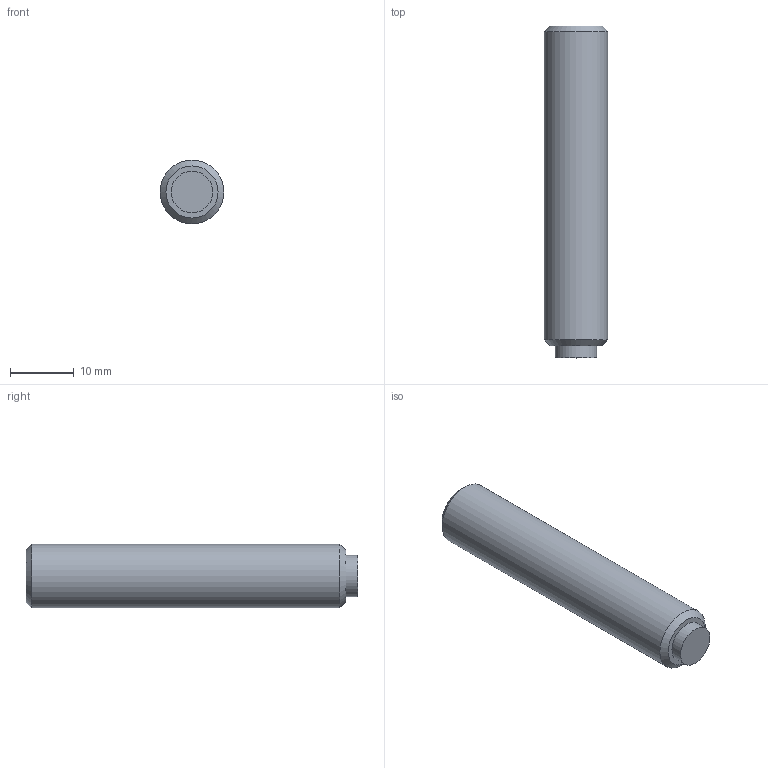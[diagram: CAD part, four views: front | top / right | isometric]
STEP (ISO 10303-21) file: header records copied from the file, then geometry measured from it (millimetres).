
FILE_DESCRIPTION( ( 'STEP AP203' ), '1' );
FILE_NAME( 'C:/Temp/Ganter_Step_05_03_2020/data/3_2/gn913_3/Grub screw GN 913.3-M10-50-KU.stp', '2020-03-13T05:35:40', ( 'License CC BY-ND 4.0' ), ( 'CADENAS' ), ' ', 'PARTsolutions', ' ' );
FILE_SCHEMA( ( 'CONFIG_CONTROL_DESIGN' ) );
Length unit declared in the file: millimetre
Products named in the file (1): _Grub screw GN 913.3-M10-50-KU
Bounding box: 10 x 51.9 x 10 mm (x, y, z)
Volume: 3835.2 mm3; surface area: 1834.5 mm2
Topology: 1 solids, 1 shells, 14 faces, 28 edges, 18 vertices
Faces by surface type: plane 10, cylinder 2, cone 2
Full cylindrical faces by diameter (mm): 6.5 x1, 10 x1
Entity records: 386 total; most frequent: DIRECTION 60, CARTESIAN_POINT 57, ORIENTED_EDGE 48, EDGE_CURVE 24, AXIS2_PLACEMENT_3D 21, EDGE_LOOP 20, VERTEX_POINT 18, LINE 18
